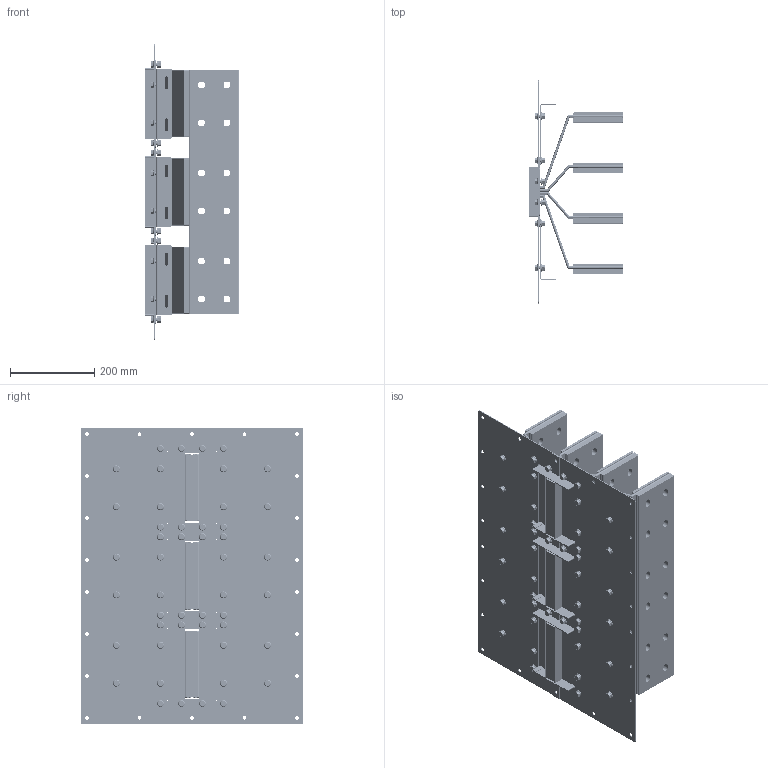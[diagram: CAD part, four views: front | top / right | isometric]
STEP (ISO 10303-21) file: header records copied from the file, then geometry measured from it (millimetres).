
FILE_DESCRIPTION(('CATIA V5 STEP','CAx-IF Rec.Pracs.--- Model Styling and Organization---1.5--- 2016-08-15','CAx-IF Rec.Pracs.---Supplemental Geometry---1.0---2011-11-01','CAx-IF Rec.Pracs.--- Composite Materials ---1.1---2010-07-15'),'2;1');
FILE_NAME('K:\COSCN 2011\32372311_RiduzioneSezioniBarre\03_Studio\__Modelli semplificati\XCP_UB semplificati per studi\XCP-S_UB_4C_Pe_STD_Assieme\Cu\XCP-S_UB_4C_Pe_T_Assieme - 6300A Cu\XCP-S_UB_4C_Pe_T_Assieme - 6300A Cu.stp','2025-05-12T13:25:38+00:00',('Utente Bticino'),('Bticino S.p.A.'),'CATIA Version 5-6 Release 2020 SP5','CATIA V5 STEP AP214 v2','none');
FILE_SCHEMA(('AUTOMOTIVE_DESIGN { 1 0 10303 214 1 1 1 1 }'));
Length unit declared in the file: millimetre
Products named in the file (9): XCP-S_UB_4C_Pe_T_Assieme - 6300A Cu; XCP-S_UB_4C_Pe_T_Lamiere_6300A Cu; XCP-S_UB_4C_Pe_T_PaccoBarre_6300 Cu; XCP-S_UB_4C_Pe_T_PaccoBarre_6300 Cu_1; XCP-S_UB_4C_Pe_T_PaccoBarre_6300 Cu_2; XCP-S_UB_4C_Pe_T - 6300A Cu_Bandelle parallelo; Ass Vite+dado M8; Steel hex flanged SCREW M12x16; Steel hex flanged NUT M8
Assembly tree (55 placements, depth 3):
  XCP-S_UB_4C_Pe_T_Assieme - 6300A Cu
    XCP-S_UB_4C_Pe_T_Lamiere_6300A Cu
    XCP-S_UB_4C_Pe_T_PaccoBarre_6300 Cu
    XCP-S_UB_4C_Pe_T_PaccoBarre_6300 Cu_1
    XCP-S_UB_4C_Pe_T_PaccoBarre_6300 Cu_2
    XCP-S_UB_4C_Pe_T - 6300A Cu_Bandelle parallelo
    Ass Vite+dado M8  x48
      Steel hex flanged SCREW M12x16
      Steel hex flanged NUT M8
Bounding box: 225 x 530 x 705 mm (x, y, z)
Volume: 9428677.5 mm3; surface area: 3808020 mm2
Topology: 134 solids, 134 shells, 3820 faces, 9588 edges, 6132 vertices
Faces by surface type: plane 1652, cylinder 1304, cone 384, bspline 384, torus 96
Entity records: 51545 total; most frequent: CARTESIAN_POINT 10428, ORIENTED_EDGE 9212, DIRECTION 6576, EDGE_CURVE 4606, VERTEX_POINT 3030, VECTOR 2928, LINE 2928, AXIS2_PLACEMENT_3D 2614
